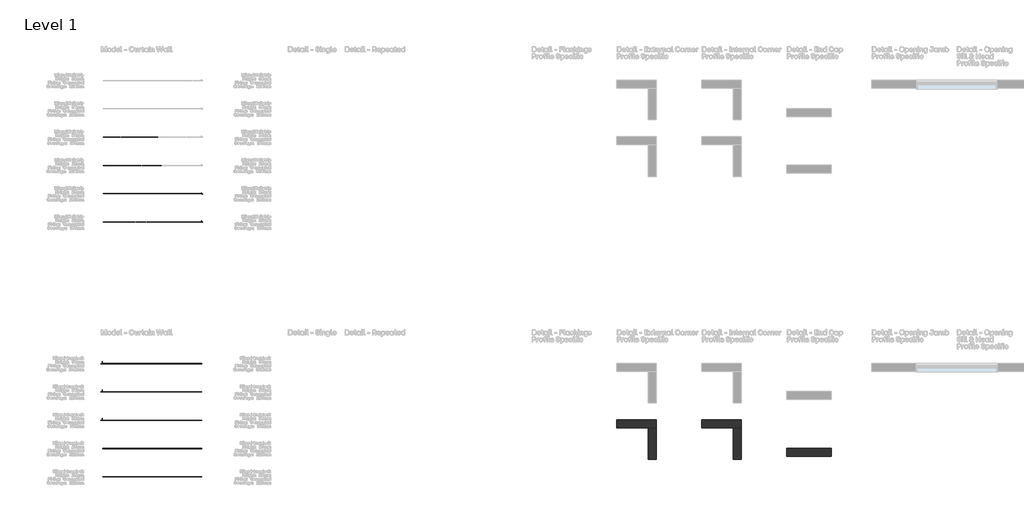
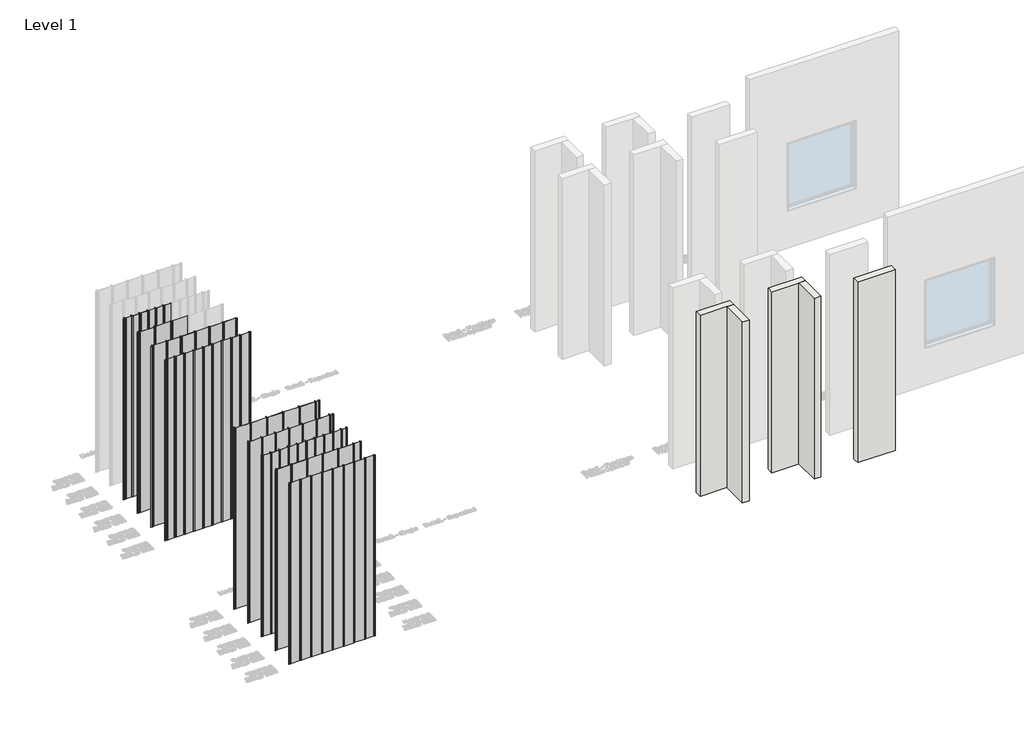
# One storey, part 1 of 64: 69 members, 61 plates, 5 walls.
"""IFC4 building model written with IfcOpenShell, lengths in millimetres."""

from ifc_helpers import new_model, si_unit, origin, origin_with_axes, place, context, project, spatial, polyline, outline, extrude, faceted_brep, transform, mapped, element, save
from components import rectangular_mullion_1e4a568e, rectangular_mullion_0d73e38d, rectangular_mullion_1fceed1b, rectangular_mullion_15a9ede3, rectangular_mullion_3a94c3c1, rectangular_mullion_f18a19a7, rectangular_mullion_c66cf88a, rectangular_mullion_c3758931, rectangular_mullion_0e59b8e7, rectangular_mullion_fc24dad9, system_panel_4b05f85e, system_panel_3cb335dd, system_panel_b49e4c4e, system_panel_13f24f5d, system_panel_f94834bd, system_panel_5df52a28, system_panel_68d21e48, system_panel_9ec93958, system_panel_a0a674ec, system_panel_01def139, system_panel_d31fda82, system_panel_5f39c921, system_panel_6d3ecb9d, system_panel_f5160eba, system_panel_9adcc186, system_panel_2266601a, system_panel_45b47346, system_panel_fe512d0c, system_panel_987935d8, system_panel_26cb32c7, system_panel_8aefe1c9, system_panel_0c774827, system_panel_183a1439

model = new_model("IFC4")

# Units and contexts
model_context = context("Model", 3, world=origin())
ifc_project = project(units=[si_unit("LENGTHUNIT", "METRE", prefix="MILLI")], contexts=[model_context])

# Site, building, storey
site = spatial("IfcSite", under=ifc_project)
building = spatial("IfcBuilding", under=site)
storey = spatial("IfcBuildingStorey", under=building, Name="Level 1", Elevation=0.0)

# Members
placement = place(None, origin())
rectangular_mullion_shape = rectangular_mullion_1e4a568e(model_context)
element("IfcMember", 1, ObjectType="Rectangular Mullion : Stratco_Hiland_Tray Nailstrip_25mm Rib_Intermediate", at=placement, inside=storey, context=model_context, shape_type="MappedRepresentation", body=[
    mapped(rectangular_mullion_shape, transform((213.06804, -4510.2964283, 0.0), x_axis=(1.0, 0.0, 0.0), y_axis=(0.0, -1.0, 0.0), z_axis=(0.0, 0.0, -1.0))),
])
element("IfcMember", 2, ObjectType="Rectangular Mullion : Stratco_Hiland_Tray Nailstrip_25mm Rib_Intermediate", at=placement, inside=storey, context=model_context, shape_type="MappedRepresentation", body=[
    mapped(rectangular_mullion_shape, transform((408.06804, -4510.2964283, 0.0), x_axis=(1.0, 0.0, 0.0), y_axis=(0.0, -1.0, 0.0), z_axis=(0.0, 0.0, -1.0))),
])
element("IfcMember", 3, ObjectType="Rectangular Mullion : Stratco_Hiland_Tray Nailstrip_25mm Rib_Intermediate", at=placement, inside=storey, context=model_context, shape_type="MappedRepresentation", body=[
    mapped(rectangular_mullion_shape, transform((603.06804, -4510.2964283, 0.0), x_axis=(1.0, 0.0, 0.0), y_axis=(0.0, -1.0, 0.0), z_axis=(0.0, 0.0, -1.0))),
])
element("IfcMember", 4, ObjectType="Rectangular Mullion : Stratco_Hiland_Tray Nailstrip_25mm Rib_Intermediate", at=placement, inside=storey, context=model_context, shape_type="MappedRepresentation", body=[
    mapped(rectangular_mullion_shape, transform((329.3280848, -4010.2964283, 0.0), x_axis=(1.0, 0.0, 0.0), y_axis=(0.0, -1.0, 0.0), z_axis=(0.0, 0.0, -1.0))),
])
element("IfcMember", 5, ObjectType="Rectangular Mullion : Stratco_Hiland_Tray Nailstrip_25mm Rib_Intermediate", at=placement, inside=storey, context=model_context, shape_type="MappedRepresentation", body=[
    mapped(rectangular_mullion_shape, transform((624.3280848, -4010.2964283, 0.0), x_axis=(1.0, 0.0, 0.0), y_axis=(0.0, -1.0, 0.0), z_axis=(0.0, 0.0, -1.0))),
])
element("IfcMember", 6, ObjectType="Rectangular Mullion : Stratco_Hiland_Tray Nailstrip_25mm Rib_Intermediate", at=placement, inside=storey, context=model_context, shape_type="MappedRepresentation", body=[
    mapped(rectangular_mullion_shape, transform((919.3280848, -4010.2964283, 0.0), x_axis=(1.0, 0.0, 0.0), y_axis=(0.0, -1.0, 0.0), z_axis=(0.0, 0.0, -1.0))),
])
element("IfcMember", 7, ObjectType="Rectangular Mullion : Stratco_Hiland_Tray Nailstrip_25mm Rib_Intermediate", at=placement, inside=storey, context=model_context, shape_type="MappedRepresentation", body=[
    mapped(rectangular_mullion_shape, transform((1214.3280848, -4010.2964283, 0.0), x_axis=(1.0, 0.0, 0.0), y_axis=(0.0, -1.0, 0.0), z_axis=(0.0, 0.0, -1.0))),
])
element("IfcMember", 8, ObjectType="Rectangular Mullion : Stratco_Hiland_Tray Nailstrip_25mm Rib_Intermediate", at=placement, inside=storey, context=model_context, shape_type="MappedRepresentation", body=[
    mapped(rectangular_mullion_shape, transform((1509.3280848, -4010.2964283, 0.0), x_axis=(1.0, 0.0, 0.0), y_axis=(0.0, -1.0, 0.0), z_axis=(0.0, 0.0, -1.0))),
])
element("IfcMember", 9, ObjectType="Rectangular Mullion : Stratco_Hiland_Tray Nailstrip_25mm Rib_Intermediate", at=placement, inside=storey, context=model_context, shape_type="MappedRepresentation", body=[
    mapped(rectangular_mullion_shape, transform((368.06804, -3510.2964283, 0.0), x_axis=(1.0, 0.0, 0.0), y_axis=(0.0, -1.0, 0.0), z_axis=(0.0, 0.0, -1.0))),
])
element("IfcMember", 10, ObjectType="Rectangular Mullion : Stratco_Hiland_Tray Nailstrip_25mm Rib_Intermediate", at=placement, inside=storey, context=model_context, shape_type="MappedRepresentation", body=[
    mapped(rectangular_mullion_shape, transform((718.06804, -3510.2964283, 0.0), x_axis=(1.0, 0.0, 0.0), y_axis=(0.0, -1.0, 0.0), z_axis=(0.0, 0.0, -1.0))),
])
element("IfcMember", 11, ObjectType="Rectangular Mullion : Stratco_Hiland_Tray Nailstrip_25mm Rib_Intermediate", at=placement, inside=storey, context=model_context, shape_type="MappedRepresentation", body=[
    mapped(rectangular_mullion_shape, transform((798.06804, -4510.2964283, 0.0), x_axis=(1.0, 0.0, 0.0), y_axis=(0.0, -1.0, 0.0), z_axis=(0.0, 0.0, -1.0))),
])
element("IfcMember", 12, ObjectType="Rectangular Mullion : Stratco_Hiland_Tray Nailstrip_25mm Rib_Intermediate", at=placement, inside=storey, context=model_context, shape_type="MappedRepresentation", body=[
    mapped(rectangular_mullion_shape, transform((993.06804, -4510.2964283, 0.0), x_axis=(1.0, 0.0, 0.0), y_axis=(0.0, -1.0, 0.0), z_axis=(0.0, 0.0, -1.0))),
])
element("IfcMember", 13, ObjectType="Rectangular Mullion : Stratco_Hiland_Tray Nailstrip_25mm Rib_Intermediate", at=placement, inside=storey, context=model_context, shape_type="MappedRepresentation", body=[
    mapped(rectangular_mullion_shape, transform((1188.06804, -4510.2964283, 0.0), x_axis=(1.0, 0.0, 0.0), y_axis=(0.0, -1.0, 0.0), z_axis=(0.0, 0.0, -1.0))),
])
element("IfcMember", 14, ObjectType="Rectangular Mullion : Stratco_Hiland_Tray Nailstrip_25mm Rib_Intermediate", at=placement, inside=storey, context=model_context, shape_type="MappedRepresentation", body=[
    mapped(rectangular_mullion_shape, transform((1383.06804, -4510.2964283, 0.0), x_axis=(1.0, 0.0, 0.0), y_axis=(0.0, -1.0, 0.0), z_axis=(0.0, 0.0, -1.0))),
])
element("IfcMember", 15, ObjectType="Rectangular Mullion : Stratco_Hiland_Tray Nailstrip_25mm Rib_Intermediate", at=placement, inside=storey, context=model_context, shape_type="MappedRepresentation", body=[
    mapped(rectangular_mullion_shape, transform((1578.06804, -4510.2964283, 0.0), x_axis=(1.0, 0.0, 0.0), y_axis=(0.0, -1.0, 0.0), z_axis=(0.0, 0.0, -1.0))),
])
element("IfcMember", 16, ObjectType="Rectangular Mullion : Stratco_Hiland_Tray Nailstrip_25mm Rib_Intermediate", at=placement, inside=storey, context=model_context, shape_type="MappedRepresentation", body=[
    mapped(rectangular_mullion_shape, transform((1773.06804, -4510.2964283, 0.0), x_axis=(1.0, 0.0, 0.0), y_axis=(0.0, -1.0, 0.0), z_axis=(0.0, 0.0, -1.0))),
])
rectangular_mullion_2_shape = rectangular_mullion_0d73e38d(model_context)
element("IfcMember", 17, ObjectType="Rectangular Mullion : Stratco_Hiland_Tray Nailstrip_25mm Rib_Underlap Tray Starter", at=placement, inside=storey, context=model_context, shape_type="MappedRepresentation", body=[
    mapped(rectangular_mullion_2_shape, transform((0.0, -4510.2964283, 4000.0), x_axis=(-1.0, 0.0, 0.0), y_axis=(0.0, -1.0, 0.0), z_axis=(0.0, 0.0, 1.0))),
])
element("IfcMember", 18, ObjectType="Rectangular Mullion : Stratco_Hiland_Tray Nailstrip_25mm Rib_Underlap Tray Starter", at=placement, inside=storey, context=model_context, shape_type="MappedRepresentation", body=[
    mapped(rectangular_mullion_2_shape, transform((0.0, -4010.2964283, 4000.0), x_axis=(-1.0, 0.0, 0.0), y_axis=(0.0, -1.0, 0.0), z_axis=(0.0, 0.0, 1.0))),
])
element("IfcMember", 19, ObjectType="Rectangular Mullion : Stratco_Hiland_Tray Nailstrip_25mm Rib_Underlap Tray Starter", at=placement, inside=storey, context=model_context, shape_type="MappedRepresentation", body=[
    mapped(rectangular_mullion_2_shape, transform((0.0, -3510.2964283, 4000.0), x_axis=(-1.0, 0.0, 0.0), y_axis=(0.0, -1.0, 0.0), z_axis=(0.0, 0.0, 1.0))),
])
rectangular_mullion_3_shape = rectangular_mullion_1fceed1b(model_context)
element("IfcMember", 20, ObjectType="Rectangular Mullion : Stratco_Hiland_Tray Nailstrip_25mm Rib_Underlap Tray", at=placement, inside=storey, context=model_context, shape_type="MappedRepresentation", body=[
    mapped(rectangular_mullion_3_shape, transform((1800.0, -4510.2964283, 0.0), x_axis=(1.0, 0.0, 0.0), y_axis=(0.0, -1.0, 0.0), z_axis=(0.0, 0.0, -1.0))),
])
element("IfcMember", 21, ObjectType="Rectangular Mullion : Stratco_Hiland_Tray Nailstrip_25mm Rib_Underlap Tray", at=placement, inside=storey, context=model_context, shape_type="MappedRepresentation", body=[
    mapped(rectangular_mullion_3_shape, transform((1800.0, -4010.2964283, 0.0), x_axis=(1.0, 0.0, 0.0), y_axis=(0.0, -1.0, 0.0), z_axis=(0.0, 0.0, -1.0))),
])
rectangular_mullion_4_shape = rectangular_mullion_15a9ede3(model_context)
element("IfcMember", 22, ObjectType="Rectangular Mullion : Stratco_Hiland_Tray Nailstrip_38mm Rib_Intermediate", at=placement, inside=storey, context=model_context, shape_type="MappedRepresentation", body=[
    mapped(rectangular_mullion_4_shape, transform((183.06804, -3010.2964283, 0.0), x_axis=(1.0, 0.0, 0.0), y_axis=(0.0, -1.0, 0.0), z_axis=(0.0, 0.0, -1.0))),
])
element("IfcMember", 23, ObjectType="Rectangular Mullion : Stratco_Hiland_Tray Nailstrip_38mm Rib_Intermediate", at=placement, inside=storey, context=model_context, shape_type="MappedRepresentation", body=[
    mapped(rectangular_mullion_4_shape, transform((348.06804, -3010.2964283, 0.0), x_axis=(1.0, 0.0, 0.0), y_axis=(0.0, -1.0, 0.0), z_axis=(0.0, 0.0, -1.0))),
])
element("IfcMember", 24, ObjectType="Rectangular Mullion : Stratco_Hiland_Tray Nailstrip_38mm Rib_Intermediate", at=placement, inside=storey, context=model_context, shape_type="MappedRepresentation", body=[
    mapped(rectangular_mullion_4_shape, transform((513.06804, -3010.2964283, 0.0), x_axis=(1.0, 0.0, 0.0), y_axis=(0.0, -1.0, 0.0), z_axis=(0.0, 0.0, -1.0))),
])
element("IfcMember", 25, ObjectType="Rectangular Mullion : Stratco_Hiland_Tray Nailstrip_38mm Rib_Intermediate", at=placement, inside=storey, context=model_context, shape_type="MappedRepresentation", body=[
    mapped(rectangular_mullion_4_shape, transform((678.06804, -3010.2964283, 0.0), x_axis=(1.0, 0.0, 0.0), y_axis=(0.0, -1.0, 0.0), z_axis=(0.0, 0.0, -1.0))),
])
element("IfcMember", 26, ObjectType="Rectangular Mullion : Stratco_Hiland_Tray Nailstrip_38mm Rib_Intermediate", at=placement, inside=storey, context=model_context, shape_type="MappedRepresentation", body=[
    mapped(rectangular_mullion_4_shape, transform((843.06804, -3010.2964283, 0.0), x_axis=(1.0, 0.0, 0.0), y_axis=(0.0, -1.0, 0.0), z_axis=(0.0, 0.0, -1.0))),
])
rectangular_mullion_5_shape = rectangular_mullion_3a94c3c1(model_context)
element("IfcMember", 27, ObjectType="Rectangular Mullion : Stratco_Hiland_Tray Nailstrip_38mm Rib_Underlap Tray Starter", at=placement, inside=storey, context=model_context, shape_type="MappedRepresentation", body=[
    mapped(rectangular_mullion_5_shape, transform((0.0, -3010.2964283, 4000.0), x_axis=(-1.0, 0.0, 0.0), y_axis=(0.0, -1.0, 0.0), z_axis=(0.0, 0.0, 1.0))),
])
rectangular_mullion_6_shape = rectangular_mullion_f18a19a7(model_context)
element("IfcMember", 28, ObjectType="Rectangular Mullion : Stratco_Hiland_Tray Snaplock_25mm Rib_Intermediate", at=placement, inside=storey, context=model_context, shape_type="MappedRepresentation", body=[
    mapped(rectangular_mullion_6_shape, transform((237.0412439, -9010.2964283, 0.0), x_axis=(1.0, 0.0, 0.0), y_axis=(0.0, -1.0, 0.0), z_axis=(0.0, 0.0, -1.0))),
])
element("IfcMember", 29, ObjectType="Rectangular Mullion : Stratco_Hiland_Tray Snaplock_25mm Rib_Intermediate", at=placement, inside=storey, context=model_context, shape_type="MappedRepresentation", body=[
    mapped(rectangular_mullion_6_shape, transform((462.0412439, -9010.2964283, 0.0), x_axis=(1.0, 0.0, 0.0), y_axis=(0.0, -1.0, 0.0), z_axis=(0.0, 0.0, -1.0))),
])
element("IfcMember", 30, ObjectType="Rectangular Mullion : Stratco_Hiland_Tray Snaplock_25mm Rib_Intermediate", at=placement, inside=storey, context=model_context, shape_type="MappedRepresentation", body=[
    mapped(rectangular_mullion_6_shape, transform((687.0412439, -9010.2964283, 0.0), x_axis=(1.0, 0.0, 0.0), y_axis=(0.0, -1.0, 0.0), z_axis=(0.0, 0.0, -1.0))),
])
element("IfcMember", 31, ObjectType="Rectangular Mullion : Stratco_Hiland_Tray Snaplock_25mm Rib_Intermediate", at=placement, inside=storey, context=model_context, shape_type="MappedRepresentation", body=[
    mapped(rectangular_mullion_6_shape, transform((912.0412439, -9010.2964283, 0.0), x_axis=(1.0, 0.0, 0.0), y_axis=(0.0, -1.0, 0.0), z_axis=(0.0, 0.0, -1.0))),
])
element("IfcMember", 32, ObjectType="Rectangular Mullion : Stratco_Hiland_Tray Snaplock_25mm Rib_Intermediate", at=placement, inside=storey, context=model_context, shape_type="MappedRepresentation", body=[
    mapped(rectangular_mullion_6_shape, transform((1137.0412439, -9010.2964283, 0.0), x_axis=(1.0, 0.0, 0.0), y_axis=(0.0, -1.0, 0.0), z_axis=(0.0, 0.0, -1.0))),
])
element("IfcMember", 33, ObjectType="Rectangular Mullion : Stratco_Hiland_Tray Snaplock_25mm Rib_Intermediate", at=placement, inside=storey, context=model_context, shape_type="MappedRepresentation", body=[
    mapped(rectangular_mullion_6_shape, transform((337.0412439, -8510.2964283, 0.0), x_axis=(1.0, 0.0, 0.0), y_axis=(0.0, -1.0, 0.0), z_axis=(0.0, 0.0, -1.0))),
])
element("IfcMember", 34, ObjectType="Rectangular Mullion : Stratco_Hiland_Tray Snaplock_25mm Rib_Intermediate", at=placement, inside=storey, context=model_context, shape_type="MappedRepresentation", body=[
    mapped(rectangular_mullion_6_shape, transform((662.0412439, -8510.2964283, 0.0), x_axis=(1.0, 0.0, 0.0), y_axis=(0.0, -1.0, 0.0), z_axis=(0.0, 0.0, -1.0))),
])
element("IfcMember", 35, ObjectType="Rectangular Mullion : Stratco_Hiland_Tray Snaplock_25mm Rib_Intermediate", at=placement, inside=storey, context=model_context, shape_type="MappedRepresentation", body=[
    mapped(rectangular_mullion_6_shape, transform((987.0412439, -8510.2964283, 0.0), x_axis=(1.0, 0.0, 0.0), y_axis=(0.0, -1.0, 0.0), z_axis=(0.0, 0.0, -1.0))),
])
element("IfcMember", 36, ObjectType="Rectangular Mullion : Stratco_Hiland_Tray Snaplock_25mm Rib_Intermediate", at=placement, inside=storey, context=model_context, shape_type="MappedRepresentation", body=[
    mapped(rectangular_mullion_6_shape, transform((1312.0412439, -8510.2964283, 0.0), x_axis=(1.0, 0.0, 0.0), y_axis=(0.0, -1.0, 0.0), z_axis=(0.0, 0.0, -1.0))),
])
element("IfcMember", 37, ObjectType="Rectangular Mullion : Stratco_Hiland_Tray Snaplock_25mm Rib_Intermediate", at=placement, inside=storey, context=model_context, shape_type="MappedRepresentation", body=[
    mapped(rectangular_mullion_6_shape, transform((1637.0412439, -8510.2964283, 0.0), x_axis=(1.0, 0.0, 0.0), y_axis=(0.0, -1.0, 0.0), z_axis=(0.0, 0.0, -1.0))),
])
element("IfcMember", 38, ObjectType="Rectangular Mullion : Stratco_Hiland_Tray Snaplock_25mm Rib_Intermediate", at=placement, inside=storey, context=model_context, shape_type="MappedRepresentation", body=[
    mapped(rectangular_mullion_6_shape, transform((1362.0412439, -9010.2964283, 0.0), x_axis=(1.0, 0.0, 0.0), y_axis=(0.0, -1.0, 0.0), z_axis=(0.0, 0.0, -1.0))),
])
element("IfcMember", 39, ObjectType="Rectangular Mullion : Stratco_Hiland_Tray Snaplock_25mm Rib_Intermediate", at=placement, inside=storey, context=model_context, shape_type="MappedRepresentation", body=[
    mapped(rectangular_mullion_6_shape, transform((1587.0412439, -9010.2964283, 0.0), x_axis=(1.0, 0.0, 0.0), y_axis=(0.0, -1.0, 0.0), z_axis=(0.0, 0.0, -1.0))),
])
rectangular_mullion_7_shape = rectangular_mullion_c66cf88a(model_context)
element("IfcMember", 40, ObjectType="Rectangular Mullion : Stratco_Hiland_Tray Snaplock_25mm Rib_Underlap Tray", at=placement, inside=storey, context=model_context, shape_type="MappedRepresentation", body=[
    mapped(rectangular_mullion_7_shape, transform((1800.0, -9010.2964283, 0.0), x_axis=(1.0, 0.0, 0.0), y_axis=(0.0, -1.0, 0.0), z_axis=(0.0, 0.0, -1.0))),
])
element("IfcMember", 41, ObjectType="Rectangular Mullion : Stratco_Hiland_Tray Snaplock_25mm Rib_Underlap Tray", at=placement, inside=storey, context=model_context, shape_type="MappedRepresentation", body=[
    mapped(rectangular_mullion_7_shape, transform((1800.0, -8510.2964283, 0.0), x_axis=(1.0, 0.0, 0.0), y_axis=(0.0, -1.0, 0.0), z_axis=(0.0, 0.0, -1.0))),
])
rectangular_mullion_8_shape = rectangular_mullion_c3758931(model_context)
element("IfcMember", 42, ObjectType="Rectangular Mullion : Stratco_Hiland_Tray Snaplock_25mm Rib_Underlap Tray Starter", at=placement, inside=storey, context=model_context, shape_type="MappedRepresentation", body=[
    mapped(rectangular_mullion_8_shape, transform((0.0, -9010.2964283, 4000.0), x_axis=(-1.0, 0.0, 0.0), y_axis=(0.0, -1.0, 0.0), z_axis=(0.0, 0.0, 1.0))),
])
element("IfcMember", 43, ObjectType="Rectangular Mullion : Stratco_Hiland_Tray Snaplock_25mm Rib_Underlap Tray Starter", at=placement, inside=storey, context=model_context, shape_type="MappedRepresentation", body=[
    mapped(rectangular_mullion_8_shape, transform((0.0, -8510.2964283, 4000.0), x_axis=(-1.0, 0.0, 0.0), y_axis=(0.0, -1.0, 0.0), z_axis=(0.0, 0.0, 1.0))),
])
rectangular_mullion_9_shape = rectangular_mullion_0e59b8e7(model_context)
element("IfcMember", 44, ObjectType="Rectangular Mullion : Stratco_Hiland_Tray Snaplock_38mm Rib_Intermediate", at=placement, inside=storey, context=model_context, shape_type="MappedRepresentation", body=[
    mapped(rectangular_mullion_9_shape, transform((197.0412439, -8010.2964283, 0.0), x_axis=(1.0, 0.0, 0.0), y_axis=(0.0, -1.0, 0.0), z_axis=(0.0, 0.0, -1.0))),
])
element("IfcMember", 45, ObjectType="Rectangular Mullion : Stratco_Hiland_Tray Snaplock_38mm Rib_Intermediate", at=placement, inside=storey, context=model_context, shape_type="MappedRepresentation", body=[
    mapped(rectangular_mullion_9_shape, transform((382.0412439, -8010.2964283, 0.0), x_axis=(1.0, 0.0, 0.0), y_axis=(0.0, -1.0, 0.0), z_axis=(0.0, 0.0, -1.0))),
])
element("IfcMember", 46, ObjectType="Rectangular Mullion : Stratco_Hiland_Tray Snaplock_38mm Rib_Intermediate", at=placement, inside=storey, context=model_context, shape_type="MappedRepresentation", body=[
    mapped(rectangular_mullion_9_shape, transform((567.0412439, -8010.2964283, 0.0), x_axis=(1.0, 0.0, 0.0), y_axis=(0.0, -1.0, 0.0), z_axis=(0.0, 0.0, -1.0))),
])
element("IfcMember", 47, ObjectType="Rectangular Mullion : Stratco_Hiland_Tray Snaplock_38mm Rib_Intermediate", at=placement, inside=storey, context=model_context, shape_type="MappedRepresentation", body=[
    mapped(rectangular_mullion_9_shape, transform((752.0412439, -8010.2964283, 0.0), x_axis=(1.0, 0.0, 0.0), y_axis=(0.0, -1.0, 0.0), z_axis=(0.0, 0.0, -1.0))),
])
element("IfcMember", 48, ObjectType="Rectangular Mullion : Stratco_Hiland_Tray Snaplock_38mm Rib_Intermediate", at=placement, inside=storey, context=model_context, shape_type="MappedRepresentation", body=[
    mapped(rectangular_mullion_9_shape, transform((937.0412439, -8010.2964283, 0.0), x_axis=(1.0, 0.0, 0.0), y_axis=(0.0, -1.0, 0.0), z_axis=(0.0, 0.0, -1.0))),
])
element("IfcMember", 49, ObjectType="Rectangular Mullion : Stratco_Hiland_Tray Snaplock_38mm Rib_Intermediate", at=placement, inside=storey, context=model_context, shape_type="MappedRepresentation", body=[
    mapped(rectangular_mullion_9_shape, transform((297.0412439, -7510.2964283, 0.0), x_axis=(1.0, 0.0, 0.0), y_axis=(0.0, -1.0, 0.0), z_axis=(0.0, 0.0, -1.0))),
])
element("IfcMember", 50, ObjectType="Rectangular Mullion : Stratco_Hiland_Tray Snaplock_38mm Rib_Intermediate", at=placement, inside=storey, context=model_context, shape_type="MappedRepresentation", body=[
    mapped(rectangular_mullion_9_shape, transform((582.0412439, -7510.2964283, 0.0), x_axis=(1.0, 0.0, 0.0), y_axis=(0.0, -1.0, 0.0), z_axis=(0.0, 0.0, -1.0))),
])
element("IfcMember", 51, ObjectType="Rectangular Mullion : Stratco_Hiland_Tray Snaplock_38mm Rib_Intermediate", at=placement, inside=storey, context=model_context, shape_type="MappedRepresentation", body=[
    mapped(rectangular_mullion_9_shape, transform((867.0412439, -7510.2964283, 0.0), x_axis=(1.0, 0.0, 0.0), y_axis=(0.0, -1.0, 0.0), z_axis=(0.0, 0.0, -1.0))),
])
element("IfcMember", 52, ObjectType="Rectangular Mullion : Stratco_Hiland_Tray Snaplock_38mm Rib_Intermediate", at=placement, inside=storey, context=model_context, shape_type="MappedRepresentation", body=[
    mapped(rectangular_mullion_9_shape, transform((1152.0412439, -7510.2964283, 0.0), x_axis=(1.0, 0.0, 0.0), y_axis=(0.0, -1.0, 0.0), z_axis=(0.0, 0.0, -1.0))),
])
element("IfcMember", 53, ObjectType="Rectangular Mullion : Stratco_Hiland_Tray Snaplock_38mm Rib_Intermediate", at=placement, inside=storey, context=model_context, shape_type="MappedRepresentation", body=[
    mapped(rectangular_mullion_9_shape, transform((1437.0412439, -7510.2964283, 0.0), x_axis=(1.0, 0.0, 0.0), y_axis=(0.0, -1.0, 0.0), z_axis=(0.0, 0.0, -1.0))),
])
element("IfcMember", 54, ObjectType="Rectangular Mullion : Stratco_Hiland_Tray Snaplock_38mm Rib_Intermediate", at=placement, inside=storey, context=model_context, shape_type="MappedRepresentation", body=[
    mapped(rectangular_mullion_9_shape, transform((1722.0412439, -7510.2964283, 0.0), x_axis=(1.0, 0.0, 0.0), y_axis=(0.0, -1.0, 0.0), z_axis=(0.0, 0.0, -1.0))),
])
element("IfcMember", 55, ObjectType="Rectangular Mullion : Stratco_Hiland_Tray Snaplock_38mm Rib_Intermediate", at=placement, inside=storey, context=model_context, shape_type="MappedRepresentation", body=[
    mapped(rectangular_mullion_9_shape, transform((352.0412439, -7010.2964283, 0.0), x_axis=(1.0, 0.0, 0.0), y_axis=(0.0, -1.0, 0.0), z_axis=(0.0, 0.0, -1.0))),
])
element("IfcMember", 56, ObjectType="Rectangular Mullion : Stratco_Hiland_Tray Snaplock_38mm Rib_Intermediate", at=placement, inside=storey, context=model_context, shape_type="MappedRepresentation", body=[
    mapped(rectangular_mullion_9_shape, transform((692.0412439, -7010.2964283, 0.0), x_axis=(1.0, 0.0, 0.0), y_axis=(0.0, -1.0, 0.0), z_axis=(0.0, 0.0, -1.0))),
])
element("IfcMember", 57, ObjectType="Rectangular Mullion : Stratco_Hiland_Tray Snaplock_38mm Rib_Intermediate", at=placement, inside=storey, context=model_context, shape_type="MappedRepresentation", body=[
    mapped(rectangular_mullion_9_shape, transform((1032.0412439, -7010.2964283, 0.0), x_axis=(1.0, 0.0, 0.0), y_axis=(0.0, -1.0, 0.0), z_axis=(0.0, 0.0, -1.0))),
])
element("IfcMember", 58, ObjectType="Rectangular Mullion : Stratco_Hiland_Tray Snaplock_38mm Rib_Intermediate", at=placement, inside=storey, context=model_context, shape_type="MappedRepresentation", body=[
    mapped(rectangular_mullion_9_shape, transform((1372.0412439, -7010.2964283, 0.0), x_axis=(1.0, 0.0, 0.0), y_axis=(0.0, -1.0, 0.0), z_axis=(0.0, 0.0, -1.0))),
])
element("IfcMember", 59, ObjectType="Rectangular Mullion : Stratco_Hiland_Tray Snaplock_38mm Rib_Intermediate", at=placement, inside=storey, context=model_context, shape_type="MappedRepresentation", body=[
    mapped(rectangular_mullion_9_shape, transform((1712.0412439, -7010.2964283, 0.0), x_axis=(1.0, 0.0, 0.0), y_axis=(0.0, -1.0, 0.0), z_axis=(0.0, 0.0, -1.0))),
])
element("IfcMember", 60, ObjectType="Rectangular Mullion : Stratco_Hiland_Tray Snaplock_38mm Rib_Intermediate", at=placement, inside=storey, context=model_context, shape_type="MappedRepresentation", body=[
    mapped(rectangular_mullion_9_shape, transform((1122.0412439, -8010.2964283, 0.0), x_axis=(1.0, 0.0, 0.0), y_axis=(0.0, -1.0, 0.0), z_axis=(0.0, 0.0, -1.0))),
])
element("IfcMember", 61, ObjectType="Rectangular Mullion : Stratco_Hiland_Tray Snaplock_38mm Rib_Intermediate", at=placement, inside=storey, context=model_context, shape_type="MappedRepresentation", body=[
    mapped(rectangular_mullion_9_shape, transform((1307.0412439, -8010.2964283, 0.0), x_axis=(1.0, 0.0, 0.0), y_axis=(0.0, -1.0, 0.0), z_axis=(0.0, 0.0, -1.0))),
])
element("IfcMember", 62, ObjectType="Rectangular Mullion : Stratco_Hiland_Tray Snaplock_38mm Rib_Intermediate", at=placement, inside=storey, context=model_context, shape_type="MappedRepresentation", body=[
    mapped(rectangular_mullion_9_shape, transform((1492.0412439, -8010.2964283, 0.0), x_axis=(1.0, 0.0, 0.0), y_axis=(0.0, -1.0, 0.0), z_axis=(0.0, 0.0, -1.0))),
])
element("IfcMember", 63, ObjectType="Rectangular Mullion : Stratco_Hiland_Tray Snaplock_38mm Rib_Intermediate", at=placement, inside=storey, context=model_context, shape_type="MappedRepresentation", body=[
    mapped(rectangular_mullion_9_shape, transform((1677.0412439, -8010.2964283, 0.0), x_axis=(1.0, 0.0, 0.0), y_axis=(0.0, -1.0, 0.0), z_axis=(0.0, 0.0, -1.0))),
])
element("IfcMember", 64, ObjectType="Rectangular Mullion : Stratco_Hiland_Tray Snaplock_38mm Rib_Underlap Tray", at=placement, inside=storey, context=model_context, shape_type="MappedRepresentation", body=[
    mapped(rectangular_mullion_7_shape, transform((1800.0, -8010.2964283, 0.0), x_axis=(1.0, 0.0, 0.0), y_axis=(0.0, -1.0, 0.0), z_axis=(0.0, 0.0, -1.0))),
])
element("IfcMember", 65, ObjectType="Rectangular Mullion : Stratco_Hiland_Tray Snaplock_38mm Rib_Underlap Tray", at=placement, inside=storey, context=model_context, shape_type="MappedRepresentation", body=[
    mapped(rectangular_mullion_7_shape, transform((1800.0, -7510.2964283, 0.0), x_axis=(1.0, 0.0, 0.0), y_axis=(0.0, -1.0, 0.0), z_axis=(0.0, 0.0, -1.0))),
])
element("IfcMember", 66, ObjectType="Rectangular Mullion : Stratco_Hiland_Tray Snaplock_38mm Rib_Underlap Tray", at=placement, inside=storey, context=model_context, shape_type="MappedRepresentation", body=[
    mapped(rectangular_mullion_7_shape, transform((1800.0, -7010.2964283, 0.0), x_axis=(1.0, 0.0, 0.0), y_axis=(0.0, -1.0, 0.0), z_axis=(0.0, 0.0, -1.0))),
])
rectangular_mullion_10_shape = rectangular_mullion_fc24dad9(model_context)
element("IfcMember", 67, ObjectType="Rectangular Mullion : Stratco_Hiland_Tray Snaplock_38mm Rib_Underlap Tray Starter", at=placement, inside=storey, context=model_context, shape_type="MappedRepresentation", body=[
    mapped(rectangular_mullion_10_shape, transform((0.0, -8010.2964283, 4000.0), x_axis=(-1.0, 0.0, 0.0), y_axis=(0.0, -1.0, 0.0), z_axis=(0.0, 0.0, 1.0))),
])
element("IfcMember", 68, ObjectType="Rectangular Mullion : Stratco_Hiland_Tray Snaplock_38mm Rib_Underlap Tray Starter", at=placement, inside=storey, context=model_context, shape_type="MappedRepresentation", body=[
    mapped(rectangular_mullion_10_shape, transform((0.0, -7510.2964283, 4000.0), x_axis=(-1.0, 0.0, 0.0), y_axis=(0.0, -1.0, 0.0), z_axis=(0.0, 0.0, 1.0))),
])
element("IfcMember", 69, ObjectType="Rectangular Mullion : Stratco_Hiland_Tray Snaplock_38mm Rib_Underlap Tray Starter", at=placement, inside=storey, context=model_context, shape_type="MappedRepresentation", body=[
    mapped(rectangular_mullion_10_shape, transform((0.0, -7010.2964283, 4000.0), x_axis=(-1.0, 0.0, 0.0), y_axis=(0.0, -1.0, 0.0), z_axis=(0.0, 0.0, 1.0))),
])

# Plates
system_panel_shape = system_panel_4b05f85e(model_context)
element("IfcPlate", 70, ObjectType="System Panel : Stratco_Hiland_Tray", at=placement, inside=storey, context=model_context, shape_type="MappedRepresentation", body=[
    mapped(system_panel_shape, transform((313.56804, -4510.2964283, 0.0), x_axis=(1.0, 0.0, 0.0), y_axis=(0.0, 1.0, 0.0), z_axis=(0.0, 0.0, 1.0))),
])
element("IfcPlate", 71, ObjectType="System Panel : Stratco_Hiland_Tray", at=placement, inside=storey, context=model_context, shape_type="MappedRepresentation", body=[
    mapped(system_panel_shape, transform((508.56804, -4510.2964283, 0.0), x_axis=(1.0, 0.0, 0.0), y_axis=(0.0, 1.0, 0.0), z_axis=(0.0, 0.0, 1.0))),
])
element("IfcPlate", 72, ObjectType="System Panel : Stratco_Hiland_Tray", at=placement, inside=storey, context=model_context, shape_type="MappedRepresentation", body=[
    mapped(system_panel_shape, transform((703.56804, -4510.2964283, 0.0), x_axis=(1.0, 0.0, 0.0), y_axis=(0.0, 1.0, 0.0), z_axis=(0.0, 0.0, 1.0))),
])
element("IfcPlate", 73, ObjectType="System Panel : Stratco_Hiland_Tray", at=placement, inside=storey, context=model_context, shape_type="MappedRepresentation", body=[
    mapped(system_panel_shape, transform((898.56804, -4510.2964283, 0.0), x_axis=(1.0, 0.0, 0.0), y_axis=(0.0, 1.0, 0.0), z_axis=(0.0, 0.0, 1.0))),
])
element("IfcPlate", 74, ObjectType="System Panel : Stratco_Hiland_Tray", at=placement, inside=storey, context=model_context, shape_type="MappedRepresentation", body=[
    mapped(system_panel_shape, transform((1093.56804, -4510.2964283, 0.0), x_axis=(1.0, 0.0, 0.0), y_axis=(0.0, 1.0, 0.0), z_axis=(0.0, 0.0, 1.0))),
])
element("IfcPlate", 75, ObjectType="System Panel : Stratco_Hiland_Tray", at=placement, inside=storey, context=model_context, shape_type="MappedRepresentation", body=[
    mapped(system_panel_shape, transform((1288.56804, -4510.2964283, 0.0), x_axis=(1.0, 0.0, 0.0), y_axis=(0.0, 1.0, 0.0), z_axis=(0.0, 0.0, 1.0))),
])
element("IfcPlate", 76, ObjectType="System Panel : Stratco_Hiland_Tray", at=placement, inside=storey, context=model_context, shape_type="MappedRepresentation", body=[
    mapped(system_panel_shape, transform((1483.56804, -4510.2964283, 0.0), x_axis=(1.0, 0.0, 0.0), y_axis=(0.0, 1.0, 0.0), z_axis=(0.0, 0.0, 1.0))),
])
element("IfcPlate", 77, ObjectType="System Panel : Stratco_Hiland_Tray", at=placement, inside=storey, context=model_context, shape_type="MappedRepresentation", body=[
    mapped(system_panel_shape, transform((1678.56804, -4510.2964283, 0.0), x_axis=(1.0, 0.0, 0.0), y_axis=(0.0, 1.0, 0.0), z_axis=(0.0, 0.0, 1.0))),
])
system_panel_2_shape = system_panel_3cb335dd(model_context)
element("IfcPlate", 78, ObjectType="System Panel : Stratco_Hiland_Tray", at=placement, inside=storey, context=model_context, shape_type="MappedRepresentation", body=[
    mapped(system_panel_2_shape, transform((184.8280847, -4010.2964283, 0.0), x_axis=(1.0, 0.0, 0.0), y_axis=(0.0, 1.0, 0.0), z_axis=(0.0, 0.0, 1.0))),
])
element("IfcPlate", 79, ObjectType="System Panel : Stratco_Hiland_Tray", at=placement, inside=storey, context=model_context, shape_type="MappedRepresentation", body=[
    mapped(system_panel_2_shape, transform((479.8280848, -4010.2964283, 0.0), x_axis=(1.0, 0.0, 0.0), y_axis=(0.0, 1.0, 0.0), z_axis=(0.0, 0.0, 1.0))),
])
element("IfcPlate", 80, ObjectType="System Panel : Stratco_Hiland_Tray", at=placement, inside=storey, context=model_context, shape_type="MappedRepresentation", body=[
    mapped(system_panel_2_shape, transform((774.8280848, -4010.2964283, 0.0), x_axis=(1.0, 0.0, 0.0), y_axis=(0.0, 1.0, 0.0), z_axis=(0.0, 0.0, 1.0))),
])
element("IfcPlate", 81, ObjectType="System Panel : Stratco_Hiland_Tray", at=placement, inside=storey, context=model_context, shape_type="MappedRepresentation", body=[
    mapped(system_panel_2_shape, transform((1069.8280848, -4010.2964283, 0.0), x_axis=(1.0, 0.0, 0.0), y_axis=(0.0, 1.0, 0.0), z_axis=(0.0, 0.0, 1.0))),
])
element("IfcPlate", 82, ObjectType="System Panel : Stratco_Hiland_Tray", at=placement, inside=storey, context=model_context, shape_type="MappedRepresentation", body=[
    mapped(system_panel_2_shape, transform((1364.8280848, -4010.2964283, 0.0), x_axis=(1.0, 0.0, 0.0), y_axis=(0.0, 1.0, 0.0), z_axis=(0.0, 0.0, 1.0))),
])
system_panel_3_shape = system_panel_b49e4c4e(model_context)
element("IfcPlate", 83, ObjectType="System Panel : Stratco_Hiland_Tray", at=placement, inside=storey, context=model_context, shape_type="MappedRepresentation", body=[
    mapped(system_panel_3_shape, transform((1644.8814643, -4010.2964283, 0.0), x_axis=(1.0, 0.0, 0.0), y_axis=(0.0, 1.0, 0.0), z_axis=(0.0, 0.0, 1.0))),
])
system_panel_4_shape = system_panel_13f24f5d(model_context)
element("IfcPlate", 84, ObjectType="System Panel : Stratco_Hiland_Tray", at=placement, inside=storey, context=model_context, shape_type="MappedRepresentation", body=[
    mapped(system_panel_4_shape, transform((546.06804, -3510.2964283, 0.0), x_axis=(1.0, 0.0, 0.0), y_axis=(0.0, 1.0, 0.0), z_axis=(0.0, 0.0, 1.0))),
])
element("IfcPlate", 85, ObjectType="System Panel : Stratco_Hiland_Tray", at=placement, inside=storey, context=model_context, shape_type="MappedRepresentation", body=[
    mapped(system_panel_4_shape, transform((896.06804, -3510.2964283, 0.0), x_axis=(1.0, 0.0, 0.0), y_axis=(0.0, 1.0, 0.0), z_axis=(0.0, 0.0, 1.0))),
])
system_panel_5_shape = system_panel_f94834bd(model_context)
element("IfcPlate", 86, ObjectType="System Panel : Stratco_Hiland_Tray", at=placement, inside=storey, context=model_context, shape_type="MappedRepresentation", body=[
    mapped(system_panel_5_shape, transform((268.56804, -3010.2964283, 0.0), x_axis=(1.0, 0.0, 0.0), y_axis=(0.0, 1.0, 0.0), z_axis=(0.0, 0.0, 1.0))),
])
element("IfcPlate", 87, ObjectType="System Panel : Stratco_Hiland_Tray", at=placement, inside=storey, context=model_context, shape_type="MappedRepresentation", body=[
    mapped(system_panel_5_shape, transform((433.56804, -3010.2964283, 0.0), x_axis=(1.0, 0.0, 0.0), y_axis=(0.0, 1.0, 0.0), z_axis=(0.0, 0.0, 1.0))),
])
element("IfcPlate", 88, ObjectType="System Panel : Stratco_Hiland_Tray", at=placement, inside=storey, context=model_context, shape_type="MappedRepresentation", body=[
    mapped(system_panel_5_shape, transform((598.56804, -3010.2964283, 0.0), x_axis=(1.0, 0.0, 0.0), y_axis=(0.0, 1.0, 0.0), z_axis=(0.0, 0.0, 1.0))),
])
element("IfcPlate", 89, ObjectType="System Panel : Stratco_Hiland_Tray", at=placement, inside=storey, context=model_context, shape_type="MappedRepresentation", body=[
    mapped(system_panel_5_shape, transform((763.56804, -3010.2964283, 0.0), x_axis=(1.0, 0.0, 0.0), y_axis=(0.0, 1.0, 0.0), z_axis=(0.0, 0.0, 1.0))),
])
element("IfcPlate", 90, ObjectType="System Panel : Stratco_Hiland_Tray", at=placement, inside=storey, context=model_context, shape_type="MappedRepresentation", body=[
    mapped(system_panel_5_shape, transform((928.56804, -3010.2964283, 0.0), x_axis=(1.0, 0.0, 0.0), y_axis=(0.0, 1.0, 0.0), z_axis=(0.0, 0.0, 1.0))),
])
system_panel_6_shape = system_panel_5df52a28(model_context)
element("IfcPlate", 91, ObjectType="System Panel : Stratco_Hiland_Tray", at=placement, inside=storey, context=model_context, shape_type="MappedRepresentation", body=[
    mapped(system_panel_6_shape, transform((351.7720638, -9010.2964283, 0.0), x_axis=(1.0, 0.0, 0.0), y_axis=(0.0, 1.0, 0.0), z_axis=(0.0, 0.0, 1.0))),
])
element("IfcPlate", 92, ObjectType="System Panel : Stratco_Hiland_Tray", at=placement, inside=storey, context=model_context, shape_type="MappedRepresentation", body=[
    mapped(system_panel_6_shape, transform((576.7720638, -9010.2964283, 0.0), x_axis=(1.0, 0.0, 0.0), y_axis=(0.0, 1.0, 0.0), z_axis=(0.0, 0.0, 1.0))),
])
element("IfcPlate", 93, ObjectType="System Panel : Stratco_Hiland_Tray", at=placement, inside=storey, context=model_context, shape_type="MappedRepresentation", body=[
    mapped(system_panel_6_shape, transform((801.7720638, -9010.2964283, 0.0), x_axis=(1.0, 0.0, 0.0), y_axis=(0.0, 1.0, 0.0), z_axis=(0.0, 0.0, 1.0))),
])
element("IfcPlate", 94, ObjectType="System Panel : Stratco_Hiland_Tray", at=placement, inside=storey, context=model_context, shape_type="MappedRepresentation", body=[
    mapped(system_panel_6_shape, transform((1026.7720638, -9010.2964283, 0.0), x_axis=(1.0, 0.0, 0.0), y_axis=(0.0, 1.0, 0.0), z_axis=(0.0, 0.0, 1.0))),
])
element("IfcPlate", 95, ObjectType="System Panel : Stratco_Hiland_Tray", at=placement, inside=storey, context=model_context, shape_type="MappedRepresentation", body=[
    mapped(system_panel_6_shape, transform((1251.7720638, -9010.2964283, 0.0), x_axis=(1.0, 0.0, 0.0), y_axis=(0.0, 1.0, 0.0), z_axis=(0.0, 0.0, 1.0))),
])
element("IfcPlate", 96, ObjectType="System Panel : Stratco_Hiland_Tray", at=placement, inside=storey, context=model_context, shape_type="MappedRepresentation", body=[
    mapped(system_panel_6_shape, transform((1476.7720638, -9010.2964283, 0.0), x_axis=(1.0, 0.0, 0.0), y_axis=(0.0, 1.0, 0.0), z_axis=(0.0, 0.0, 1.0))),
])
system_panel_7_shape = system_panel_68d21e48(model_context)
element("IfcPlate", 97, ObjectType="System Panel : Stratco_Hiland_Tray", at=placement, inside=storey, context=model_context, shape_type="MappedRepresentation", body=[
    mapped(system_panel_7_shape, transform((501.7720638, -8510.2964283, 0.0), x_axis=(1.0, 0.0, 0.0), y_axis=(0.0, 1.0, 0.0), z_axis=(0.0, 0.0, 1.0))),
])
element("IfcPlate", 98, ObjectType="System Panel : Stratco_Hiland_Tray", at=placement, inside=storey, context=model_context, shape_type="MappedRepresentation", body=[
    mapped(system_panel_7_shape, transform((826.7720638, -8510.2964283, 0.0), x_axis=(1.0, 0.0, 0.0), y_axis=(0.0, 1.0, 0.0), z_axis=(0.0, 0.0, 1.0))),
])
element("IfcPlate", 99, ObjectType="System Panel : Stratco_Hiland_Tray", at=placement, inside=storey, context=model_context, shape_type="MappedRepresentation", body=[
    mapped(system_panel_7_shape, transform((1151.7720638, -8510.2964283, 0.0), x_axis=(1.0, 0.0, 0.0), y_axis=(0.0, 1.0, 0.0), z_axis=(0.0, 0.0, 1.0))),
])
element("IfcPlate", 100, ObjectType="System Panel : Stratco_Hiland_Tray", at=placement, inside=storey, context=model_context, shape_type="MappedRepresentation", body=[
    mapped(system_panel_7_shape, transform((1476.7720638, -8510.2964283, 0.0), x_axis=(1.0, 0.0, 0.0), y_axis=(0.0, 1.0, 0.0), z_axis=(0.0, 0.0, 1.0))),
])
system_panel_8_shape = system_panel_9ec93958(model_context)
element("IfcPlate", 101, ObjectType="System Panel : Stratco_Hiland_Tray", at=placement, inside=storey, context=model_context, shape_type="MappedRepresentation", body=[
    mapped(system_panel_8_shape, transform((441.7720638, -7510.2964283, 0.0), x_axis=(1.0, 0.0, 0.0), y_axis=(0.0, 1.0, 0.0), z_axis=(0.0, 0.0, 1.0))),
])
element("IfcPlate", 102, ObjectType="System Panel : Stratco_Hiland_Tray", at=placement, inside=storey, context=model_context, shape_type="MappedRepresentation", body=[
    mapped(system_panel_8_shape, transform((726.7720638, -7510.2964283, 0.0), x_axis=(1.0, 0.0, 0.0), y_axis=(0.0, 1.0, 0.0), z_axis=(0.0, 0.0, 1.0))),
])
element("IfcPlate", 103, ObjectType="System Panel : Stratco_Hiland_Tray", at=placement, inside=storey, context=model_context, shape_type="MappedRepresentation", body=[
    mapped(system_panel_8_shape, transform((1011.7720638, -7510.2964283, 0.0), x_axis=(1.0, 0.0, 0.0), y_axis=(0.0, 1.0, 0.0), z_axis=(0.0, 0.0, 1.0))),
])
element("IfcPlate", 104, ObjectType="System Panel : Stratco_Hiland_Tray", at=placement, inside=storey, context=model_context, shape_type="MappedRepresentation", body=[
    mapped(system_panel_8_shape, transform((1296.7720638, -7510.2964283, 0.0), x_axis=(1.0, 0.0, 0.0), y_axis=(0.0, 1.0, 0.0), z_axis=(0.0, 0.0, 1.0))),
])
element("IfcPlate", 105, ObjectType="System Panel : Stratco_Hiland_Tray", at=placement, inside=storey, context=model_context, shape_type="MappedRepresentation", body=[
    mapped(system_panel_8_shape, transform((1581.7720638, -7510.2964283, 0.0), x_axis=(1.0, 0.0, 0.0), y_axis=(0.0, 1.0, 0.0), z_axis=(0.0, 0.0, 1.0))),
])
system_panel_9_shape = system_panel_a0a674ec(model_context)
element("IfcPlate", 106, ObjectType="System Panel : Stratco_Hiland_Tray", at=placement, inside=storey, context=model_context, shape_type="MappedRepresentation", body=[
    mapped(system_panel_9_shape, transform((524.2720638, -7010.2964283, 0.0), x_axis=(1.0, 0.0, 0.0), y_axis=(0.0, 1.0, 0.0), z_axis=(0.0, 0.0, 1.0))),
])
element("IfcPlate", 107, ObjectType="System Panel : Stratco_Hiland_Tray", at=placement, inside=storey, context=model_context, shape_type="MappedRepresentation", body=[
    mapped(system_panel_9_shape, transform((864.2720638, -7010.2964283, 0.0), x_axis=(1.0, 0.0, 0.0), y_axis=(0.0, 1.0, 0.0), z_axis=(0.0, 0.0, 1.0))),
])
element("IfcPlate", 108, ObjectType="System Panel : Stratco_Hiland_Tray", at=placement, inside=storey, context=model_context, shape_type="MappedRepresentation", body=[
    mapped(system_panel_9_shape, transform((1204.2720638, -7010.2964283, 0.0), x_axis=(1.0, 0.0, 0.0), y_axis=(0.0, 1.0, 0.0), z_axis=(0.0, 0.0, 1.0))),
])
element("IfcPlate", 109, ObjectType="System Panel : Stratco_Hiland_Tray", at=placement, inside=storey, context=model_context, shape_type="MappedRepresentation", body=[
    mapped(system_panel_9_shape, transform((1544.2720638, -7010.2964283, 0.0), x_axis=(1.0, 0.0, 0.0), y_axis=(0.0, 1.0, 0.0), z_axis=(0.0, 0.0, 1.0))),
])
system_panel_10_shape = system_panel_01def139(model_context)
element("IfcPlate", 110, ObjectType="System Panel : Stratco_Hiland_Tray", at=placement, inside=storey, context=model_context, shape_type="MappedRepresentation", body=[
    mapped(system_panel_10_shape, transform((291.7720638, -8010.2964283, 0.0), x_axis=(1.0, 0.0, 0.0), y_axis=(0.0, 1.0, 0.0), z_axis=(0.0, 0.0, 1.0))),
])
element("IfcPlate", 111, ObjectType="System Panel : Stratco_Hiland_Tray", at=placement, inside=storey, context=model_context, shape_type="MappedRepresentation", body=[
    mapped(system_panel_10_shape, transform((476.7720638, -8010.2964283, 0.0), x_axis=(1.0, 0.0, 0.0), y_axis=(0.0, 1.0, 0.0), z_axis=(0.0, 0.0, 1.0))),
])
element("IfcPlate", 112, ObjectType="System Panel : Stratco_Hiland_Tray", at=placement, inside=storey, context=model_context, shape_type="MappedRepresentation", body=[
    mapped(system_panel_10_shape, transform((661.7720638, -8010.2964283, 0.0), x_axis=(1.0, 0.0, 0.0), y_axis=(0.0, 1.0, 0.0), z_axis=(0.0, 0.0, 1.0))),
])
element("IfcPlate", 113, ObjectType="System Panel : Stratco_Hiland_Tray", at=placement, inside=storey, context=model_context, shape_type="MappedRepresentation", body=[
    mapped(system_panel_10_shape, transform((846.7720638, -8010.2964283, 0.0), x_axis=(1.0, 0.0, 0.0), y_axis=(0.0, 1.0, 0.0), z_axis=(0.0, 0.0, 1.0))),
])
element("IfcPlate", 114, ObjectType="System Panel : Stratco_Hiland_Tray", at=placement, inside=storey, context=model_context, shape_type="MappedRepresentation", body=[
    mapped(system_panel_10_shape, transform((1031.7720638, -8010.2964283, 0.0), x_axis=(1.0, 0.0, 0.0), y_axis=(0.0, 1.0, 0.0), z_axis=(0.0, 0.0, 1.0))),
])
element("IfcPlate", 115, ObjectType="System Panel : Stratco_Hiland_Tray", at=placement, inside=storey, context=model_context, shape_type="MappedRepresentation", body=[
    mapped(system_panel_10_shape, transform((1216.7720638, -8010.2964283, 0.0), x_axis=(1.0, 0.0, 0.0), y_axis=(0.0, 1.0, 0.0), z_axis=(0.0, 0.0, 1.0))),
])
element("IfcPlate", 116, ObjectType="System Panel : Stratco_Hiland_Tray", at=placement, inside=storey, context=model_context, shape_type="MappedRepresentation", body=[
    mapped(system_panel_10_shape, transform((1401.7720638, -8010.2964283, 0.0), x_axis=(1.0, 0.0, 0.0), y_axis=(0.0, 1.0, 0.0), z_axis=(0.0, 0.0, 1.0))),
])
element("IfcPlate", 117, ObjectType="System Panel : Stratco_Hiland_Tray", at=placement, inside=storey, context=model_context, shape_type="MappedRepresentation", body=[
    mapped(system_panel_10_shape, transform((1586.7720638, -8010.2964283, 0.0), x_axis=(1.0, 0.0, 0.0), y_axis=(0.0, 1.0, 0.0), z_axis=(0.0, 0.0, 1.0))),
])
system_panel_11_shape = system_panel_d31fda82(model_context)
element("IfcPlate", 118, ObjectType="System Panel : Stratco_Hiland_Tray", at=placement, inside=storey, context=model_context, shape_type="MappedRepresentation", body=[
    mapped(system_panel_11_shape, transform((132.7522721, -9010.2964283, 0.0), x_axis=(1.0, 0.0, 0.0), y_axis=(0.0, 1.0, 0.0), z_axis=(0.0, 0.0, 1.0))),
])
system_panel_12_shape = system_panel_5f39c921(model_context)
element("IfcPlate", 119, ObjectType="System Panel : Stratco_Hiland_Tray", at=placement, inside=storey, context=model_context, shape_type="MappedRepresentation", body=[
    mapped(system_panel_12_shape, transform((182.7522721, -8510.2964283, 0.0), x_axis=(1.0, 0.0, 0.0), y_axis=(0.0, 1.0, 0.0), z_axis=(0.0, 0.0, 1.0))),
])
system_panel_13_shape = system_panel_6d3ecb9d(model_context)
element("IfcPlate", 120, ObjectType="System Panel : Stratco_Hiland_Tray", at=placement, inside=storey, context=model_context, shape_type="MappedRepresentation", body=[
    mapped(system_panel_13_shape, transform((1712.2514418, -8510.2964283, 0.0), x_axis=(1.0, 0.0, 0.0), y_axis=(0.0, 1.0, 0.0), z_axis=(0.0, 0.0, 1.0))),
])
system_panel_14_shape = system_panel_f5160eba(model_context)
element("IfcPlate", 121, ObjectType="System Panel : Stratco_Hiland_Tray", at=placement, inside=storey, context=model_context, shape_type="MappedRepresentation", body=[
    mapped(system_panel_14_shape, transform((112.7522721, -8010.2964283, 0.0), x_axis=(1.0, 0.0, 0.0), y_axis=(0.0, 1.0, 0.0), z_axis=(0.0, 0.0, 1.0))),
])
system_panel_15_shape = system_panel_9adcc186(model_context)
element("IfcPlate", 122, ObjectType="System Panel : Stratco_Hiland_Tray", at=placement, inside=storey, context=model_context, shape_type="MappedRepresentation", body=[
    mapped(system_panel_15_shape, transform((162.7522721, -7510.2964283, 0.0), x_axis=(1.0, 0.0, 0.0), y_axis=(0.0, 1.0, 0.0), z_axis=(0.0, 0.0, 1.0))),
])
system_panel_16_shape = system_panel_2266601a(model_context)
element("IfcPlate", 123, ObjectType="System Panel : Stratco_Hiland_Tray", at=placement, inside=storey, context=model_context, shape_type="MappedRepresentation", body=[
    mapped(system_panel_16_shape, transform((1754.7514418, -7510.2964283, 0.0), x_axis=(1.0, 0.0, 0.0), y_axis=(0.0, 1.0, 0.0), z_axis=(0.0, 0.0, 1.0))),
])
system_panel_17_shape = system_panel_45b47346(model_context)
element("IfcPlate", 124, ObjectType="System Panel : Stratco_Hiland_Tray", at=placement, inside=storey, context=model_context, shape_type="MappedRepresentation", body=[
    mapped(system_panel_17_shape, transform((190.2522721, -7010.2964283, 0.0), x_axis=(1.0, 0.0, 0.0), y_axis=(0.0, 1.0, 0.0), z_axis=(0.0, 0.0, 1.0))),
])
system_panel_18_shape = system_panel_fe512d0c(model_context)
element("IfcPlate", 125, ObjectType="System Panel : Stratco_Hiland_Tray", at=placement, inside=storey, context=model_context, shape_type="MappedRepresentation", body=[
    mapped(system_panel_18_shape, transform((1749.7514418, -7010.2964283, 0.0), x_axis=(1.0, 0.0, 0.0), y_axis=(0.0, 1.0, 0.0), z_axis=(0.0, 0.0, 1.0))),
])
system_panel_19_shape = system_panel_987935d8(model_context)
element("IfcPlate", 126, ObjectType="System Panel : Stratco_Hiland_Tray", at=placement, inside=storey, context=model_context, shape_type="MappedRepresentation", body=[
    mapped(system_panel_19_shape, transform((1687.2514418, -9010.2964283, 0.0), x_axis=(1.0, 0.0, 0.0), y_axis=(0.0, 1.0, 0.0), z_axis=(0.0, 0.0, 1.0))),
])
system_panel_20_shape = system_panel_26cb32c7(model_context)
element("IfcPlate", 127, ObjectType="System Panel : Stratco_Hiland_Tray", at=placement, inside=storey, context=model_context, shape_type="MappedRepresentation", body=[
    mapped(system_panel_20_shape, transform((1732.2514418, -8010.2964283, 0.0), x_axis=(1.0, 0.0, 0.0), y_axis=(0.0, 1.0, 0.0), z_axis=(0.0, 0.0, 1.0))),
])
system_panel_21_shape = system_panel_8aefe1c9(model_context)
element("IfcPlate", 128, ObjectType="System Panel : Stratco_Hiland_Tray", at=placement, inside=storey, context=model_context, shape_type="MappedRepresentation", body=[
    mapped(system_panel_21_shape, transform((126.6980623, -4510.2964283, 0.0), x_axis=(1.0, 0.0, 0.0), y_axis=(0.0, 1.0, 0.0), z_axis=(0.0, 0.0, 1.0))),
])
system_panel_22_shape = system_panel_0c774827(model_context)
element("IfcPlate", 129, ObjectType="System Panel : Stratco_Hiland_Tray", at=placement, inside=storey, context=model_context, shape_type="MappedRepresentation", body=[
    mapped(system_panel_22_shape, transform((204.1980623, -3510.2964283, 0.0), x_axis=(1.0, 0.0, 0.0), y_axis=(0.0, 1.0, 0.0), z_axis=(0.0, 0.0, 1.0))),
])
system_panel_23_shape = system_panel_183a1439(model_context)
element("IfcPlate", 130, ObjectType="System Panel : Stratco_Hiland_Tray", at=placement, inside=storey, context=model_context, shape_type="MappedRepresentation", body=[
    mapped(system_panel_23_shape, transform((111.6980623, -3010.2964283, 0.0), x_axis=(1.0, 0.0, 0.0), y_axis=(0.0, 1.0, 0.0), z_axis=(0.0, 0.0, 1.0))),
])

# Walls
element("IfcWall", 131, ObjectType="Exterior - Cladding, Batten, Membrane/ Thermal Break, Stud, Lining", at=placement, inside=storey, context=model_context, shape_type="Brep", body=[
    faceted_brep([(9100.0, -8142.0, 0.0), (9658.0, -8142.0, 0.0), (9800.0, -8142.0, 0.0), (9800.0, -8142.0, 4000.0), (9658.0, -8142.0, 4000.0), (9100.0, -8142.0, 4000.0), (9100.0, -8000.0, 0.0), (9100.0, -8000.0, 4000.0), (9800.0, -8000.0, 4000.0), (9800.0, -8000.0, 0.0)], [[[0, 1, 2, 3, 4, 5]], [[6, 7, 8, 9]], [[2, 1, 0, 6, 9]], [[5, 4, 3, 8, 7]], [[0, 5, 7, 6]], [[3, 2, 9, 8]]]),
])
element("IfcWall", 132, ObjectType="Exterior - Cladding, Batten, Membrane/ Thermal Break, Stud, Lining", at=placement, inside=storey, context=model_context, shape_type="SweptSolid", body=[
    extrude(outline(polyline([(9800.0, -8142.0), (9800.0, -8700.0), (9658.0, -8700.0), (9658.0, -8142.0), (9800.0, -8142.0)])), origin_with_axes(), (0.0, 0.0, 1.0), 4000.0),
])
element("IfcWall", 133, ObjectType="Exterior - Cladding, Batten, Membrane/ Thermal Break, Stud, Lining", at=placement, inside=storey, context=model_context, shape_type="Brep", body=[
    faceted_brep([(10600.0, -8142.0, 0.0), (11158.0, -8142.0, 0.0), (11300.0, -8142.0, 0.0), (11300.0, -8142.0, 4000.0), (11158.0, -8142.0, 4000.0), (10600.0, -8142.0, 4000.0), (10600.0, -8000.0, 0.0), (10600.0, -8000.0, 4000.0), (11300.0, -8000.0, 4000.0), (11300.0, -8000.0, 0.0)], [[[0, 1, 2, 3, 4, 5]], [[6, 7, 8, 9]], [[2, 1, 0, 6, 9]], [[5, 4, 3, 8, 7]], [[0, 5, 7, 6]], [[3, 2, 9, 8]]]),
])
element("IfcWall", 134, ObjectType="Exterior - Cladding, Batten, Membrane/ Thermal Break, Stud, Lining", at=placement, inside=storey, context=model_context, shape_type="SweptSolid", body=[
    extrude(outline(polyline([(11300.0, -8142.0), (11300.0, -8700.0), (11158.0, -8700.0), (11158.0, -8142.0), (11300.0, -8142.0)])), origin_with_axes(), (0.0, 0.0, 1.0), 4000.0),
])
element("IfcWall", 135, ObjectType="Exterior - Cladding, Batten, Membrane/ Thermal Break, Stud, Lining", at=placement, inside=storey, context=model_context, shape_type="SweptSolid", body=[
    extrude(outline(polyline([(12887.8074912, -8642.0), (12100.0, -8642.0), (12100.0, -8500.0), (12887.8074912, -8500.0), (12887.8074912, -8642.0)])), origin_with_axes(), (0.0, 0.0, 1.0), 4000.0),
])

save(model, "model.ifc")
